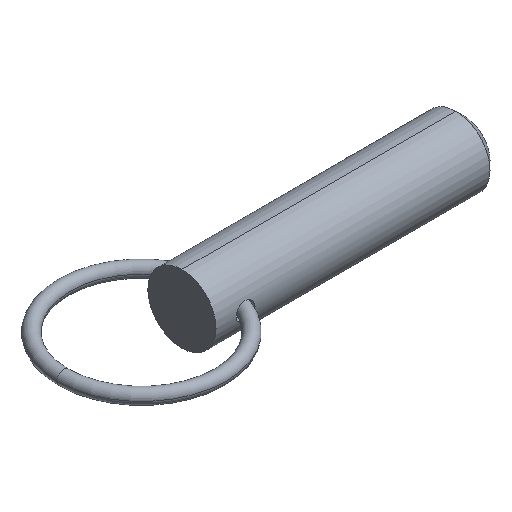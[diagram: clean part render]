
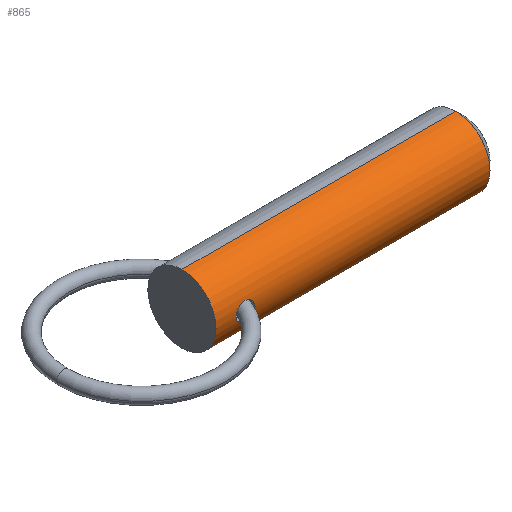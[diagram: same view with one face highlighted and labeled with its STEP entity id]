
A CAD part, isometric view. The second image highlights one B-rep face of the part: STEP entity #865.
In plain terms, the highlighted cylindrical face has radius 5.555 mm (diameter 11.11 mm), a partial arc.
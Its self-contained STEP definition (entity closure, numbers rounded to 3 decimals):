
#9 = LINE ( 'NONE', #512, #645 ) ;
#13 = CIRCLE ( 'NONE', #68, 5.555 ) ;
#25 = EDGE_CURVE ( 'NONE', #681, #206, #655, .T. ) ;
#26 = CARTESIAN_POINT ( 'NONE',  ( 6.271, -5.535, 0.475 ) ) ;
#31 = CARTESIAN_POINT ( 'NONE',  ( 5.028, -5.379, 1.387 ) ) ;
#59 = CARTESIAN_POINT ( 'NONE',  ( 4.931, -5.378, -1.391 ) ) ;
#63 = CARTESIAN_POINT ( 'NONE',  ( 5.758, -5.436, -1.152 ) ) ;
#68 = AXIS2_PLACEMENT_3D ( 'NONE', #439, #834, #429 ) ;
#117 = EDGE_CURVE ( 'NONE', #713, #681, #609, .T. ) ;
#118 = ORIENTED_EDGE ( 'NONE', *, *, #851, .F. ) ;
#144 = CARTESIAN_POINT ( 'NONE',  ( 6.35, -5.555, 0. ) ) ;
#154 = CARTESIAN_POINT ( 'NONE',  ( 0., 0., 0. ) ) ;
#161 = FACE_BOUND ( 'NONE', #234, .T. ) ;
#162 = CARTESIAN_POINT ( 'NONE',  ( 5.586, -5.413, 1.25 ) ) ;
#163 = B_SPLINE_CURVE_WITH_KNOTS ( 'NONE', 3,
 ( #801, #194, #790, #733, #320, #399, #440, #63, #269, #258, #606, #672, #59, #187, #333, #327, #601, #725, #858, #380, #615, #611, #192, #872 ),
 .UNSPECIFIED., .F., .F.,
 ( 4, 2, 2, 2, 2, 2, 2, 2, 2, 2, 2, 4 ),
 ( 0.005, 0.006, 0.006, 0.006, 0.007, 0.007, 0.008, 0.008, 0.009, 0.009, 0.01, 0.01 ),
 .UNSPECIFIED. ) ;
#177 = DIRECTION ( 'NONE',  ( 0., 0., -1. ) ) ;
#182 = DIRECTION ( 'NONE',  ( 1., 0., 0. ) ) ;
#187 = CARTESIAN_POINT ( 'NONE',  ( 4.641, -5.381, -1.379 ) ) ;
#192 = CARTESIAN_POINT ( 'NONE',  ( 3.256, -5.555, -0.096 ) ) ;
#194 = CARTESIAN_POINT ( 'NONE',  ( 6.35, -5.555, -0.194 ) ) ;
#206 = VERTEX_POINT ( 'NONE', #674 ) ;
#218 = CARTESIAN_POINT ( 'NONE',  ( 3.357, -5.536, 0.47 ) ) ;
#222 = CARTESIAN_POINT ( 'NONE',  ( 3.497, -5.51, 0.723 ) ) ;
#225 = CARTESIAN_POINT ( 'NONE',  ( 3.256, -5.555, 0. ) ) ;
#226 = CARTESIAN_POINT ( 'NONE',  ( 6.04, -5.483, 0.898 ) ) ;
#234 = EDGE_LOOP ( 'NONE', ( #467, #559 ) ) ;
#237 = CARTESIAN_POINT ( 'NONE',  ( 4.453, -5.392, 1.339 ) ) ;
#245 = CARTESIAN_POINT ( 'NONE',  ( 0., 0., 5.555 ) ) ;
#258 = CARTESIAN_POINT ( 'NONE',  ( 5.313, -5.391, -1.341 ) ) ;
#269 = CARTESIAN_POINT ( 'NONE',  ( 5.587, -5.413, -1.25 ) ) ;
#294 = ORIENTED_EDGE ( 'NONE', *, *, #25, .T. ) ;
#299 = CARTESIAN_POINT ( 'NONE',  ( 3.256, -5.555, 0.096 ) ) ;
#303 = CARTESIAN_POINT ( 'NONE',  ( 4.095, -5.423, 1.204 ) ) ;
#310 = CARTESIAN_POINT ( 'NONE',  ( 6.35, -5.555, 0. ) ) ;
#320 = CARTESIAN_POINT ( 'NONE',  ( 6.147, -5.507, -0.733 ) ) ;
#325 = EDGE_CURVE ( 'NONE', #690, #832, #693, .T. ) ;
#327 = CARTESIAN_POINT ( 'NONE',  ( 4.089, -5.424, -1.202 ) ) ;
#333 = CARTESIAN_POINT ( 'NONE',  ( 4.451, -5.392, -1.339 ) ) ;
#373 = CARTESIAN_POINT ( 'NONE',  ( 44.631, 0., 5.555 ) ) ;
#380 = CARTESIAN_POINT ( 'NONE',  ( 3.356, -5.536, -0.468 ) ) ;
#381 = DIRECTION ( 'NONE',  ( 0., 0., -1. ) ) ;
#399 = CARTESIAN_POINT ( 'NONE',  ( 6.035, -5.484, -0.889 ) ) ;
#414 = CARTESIAN_POINT ( 'NONE',  ( 0., 0., -5.555 ) ) ;
#416 = CARTESIAN_POINT ( 'NONE',  ( 6.35, -5.555, 0.097 ) ) ;
#429 = DIRECTION ( 'NONE',  ( 0., 0., -1. ) ) ;
#436 = CARTESIAN_POINT ( 'NONE',  ( 3.924, -5.445, 1.109 ) ) ;
#439 = CARTESIAN_POINT ( 'NONE',  ( 44.631, 0., 0. ) ) ;
#440 = CARTESIAN_POINT ( 'NONE',  ( 5.97, -5.472, -0.961 ) ) ;
#453 = VECTOR ( 'NONE', #591, 1000. ) ;
#467 = ORIENTED_EDGE ( 'NONE', *, *, #325, .T. ) ;
#483 = EDGE_CURVE ( 'NONE', #832, #690, #163, .T. ) ;
#490 = CARTESIAN_POINT ( 'NONE',  ( 3.627, -5.488, 0.87 ) ) ;
#494 = CARTESIAN_POINT ( 'NONE',  ( 4.646, -5.381, 1.379 ) ) ;
#499 = DIRECTION ( 'NONE',  ( 1., 0., 0. ) ) ;
#501 = EDGE_LOOP ( 'NONE', ( #700, #588, #294, #118 ) ) ;
#506 = CARTESIAN_POINT ( 'NONE',  ( 6.301, -5.543, 0.381 ) ) ;
#512 = CARTESIAN_POINT ( 'NONE',  ( 0., 0., 5.555 ) ) ;
#517 = CYLINDRICAL_SURFACE ( 'NONE', #518, 5.555 ) ;
#518 = AXIS2_PLACEMENT_3D ( 'NONE', #154, #499, #177 ) ;
#559 = ORIENTED_EDGE ( 'NONE', *, *, #483, .T. ) ;
#565 = AXIS2_PLACEMENT_3D ( 'NONE', #594, #182, #381 ) ;
#588 = ORIENTED_EDGE ( 'NONE', *, *, #117, .T. ) ;
#591 = DIRECTION ( 'NONE',  ( 1., 0., 0. ) ) ;
#594 = CARTESIAN_POINT ( 'NONE',  ( 0., 0., 0. ) ) ;
#601 = CARTESIAN_POINT ( 'NONE',  ( 3.923, -5.445, -1.108 ) ) ;
#606 = CARTESIAN_POINT ( 'NONE',  ( 5.218, -5.385, -1.362 ) ) ;
#609 = CIRCLE ( 'NONE', #565, 5.555 ) ;
#611 = CARTESIAN_POINT ( 'NONE',  ( 3.269, -5.552, -0.193 ) ) ;
#615 = CARTESIAN_POINT ( 'NONE',  ( 3.319, -5.543, -0.379 ) ) ;
#645 = VECTOR ( 'NONE', #778, 1000. ) ;
#650 = CARTESIAN_POINT ( 'NONE',  ( 0., 0., -5.555 ) ) ;
#655 = LINE ( 'NONE', #650, #453 ) ;
#672 = CARTESIAN_POINT ( 'NONE',  ( 5.027, -5.379, -1.387 ) ) ;
#674 = CARTESIAN_POINT ( 'NONE',  ( 44.631, 0., -5.555 ) ) ;
#681 = VERTEX_POINT ( 'NONE', #414 ) ;
#684 = EDGE_CURVE ( 'NONE', #713, #708, #9, .T. ) ;
#689 = CARTESIAN_POINT ( 'NONE',  ( 5.757, -5.436, 1.153 ) ) ;
#690 = VERTEX_POINT ( 'NONE', #225 ) ;
#693 = B_SPLINE_CURVE_WITH_KNOTS ( 'NONE', 3,
 ( #831, #299, #827, #704, #218, #222, #490, #436, #303, #237, #494, #761, #31, #846, #697, #162, #689, #226, #755, #26, #506, #841, #416, #144 ),
 .UNSPECIFIED., .F., .F.,
 ( 4, 2, 2, 2, 2, 2, 2, 2, 2, 2, 2, 4 ),
 ( 0.001, 0.001, 0.001, 0.002, 0.002, 0.003, 0.003, 0.003, 0.004, 0.005, 0.005, 0.005 ),
 .UNSPECIFIED. ) ;
#697 = CARTESIAN_POINT ( 'NONE',  ( 5.314, -5.391, 1.34 ) ) ;
#700 = ORIENTED_EDGE ( 'NONE', *, *, #684, .F. ) ;
#704 = CARTESIAN_POINT ( 'NONE',  ( 3.32, -5.543, 0.38 ) ) ;
#708 = VERTEX_POINT ( 'NONE', #373 ) ;
#713 = VERTEX_POINT ( 'NONE', #245 ) ;
#719 = FACE_OUTER_BOUND ( 'NONE', #501, .T. ) ;
#725 = CARTESIAN_POINT ( 'NONE',  ( 3.623, -5.489, -0.866 ) ) ;
#733 = CARTESIAN_POINT ( 'NONE',  ( 6.194, -5.518, -0.65 ) ) ;
#755 = CARTESIAN_POINT ( 'NONE',  ( 6.156, -5.509, 0.738 ) ) ;
#761 = CARTESIAN_POINT ( 'NONE',  ( 4.932, -5.378, 1.391 ) ) ;
#778 = DIRECTION ( 'NONE',  ( 1., 0., 0. ) ) ;
#790 = CARTESIAN_POINT ( 'NONE',  ( 6.31, -5.544, -0.386 ) ) ;
#801 = CARTESIAN_POINT ( 'NONE',  ( 6.35, -5.555, 0. ) ) ;
#827 = CARTESIAN_POINT ( 'NONE',  ( 3.269, -5.552, 0.194 ) ) ;
#831 = CARTESIAN_POINT ( 'NONE',  ( 3.256, -5.555, 0. ) ) ;
#832 = VERTEX_POINT ( 'NONE', #310 ) ;
#834 = DIRECTION ( 'NONE',  ( 1., 0., 0. ) ) ;
#841 = CARTESIAN_POINT ( 'NONE',  ( 6.34, -5.552, 0.193 ) ) ;
#846 = CARTESIAN_POINT ( 'NONE',  ( 5.219, -5.385, 1.362 ) ) ;
#851 = EDGE_CURVE ( 'NONE', #708, #206, #13, .T. ) ;
#858 = CARTESIAN_POINT ( 'NONE',  ( 3.496, -5.51, -0.722 ) ) ;
#865 = ADVANCED_FACE ( 'NONE', ( #719, #161 ), #517, .T. ) ;
#872 = CARTESIAN_POINT ( 'NONE',  ( 3.256, -5.555, 0. ) ) ;
